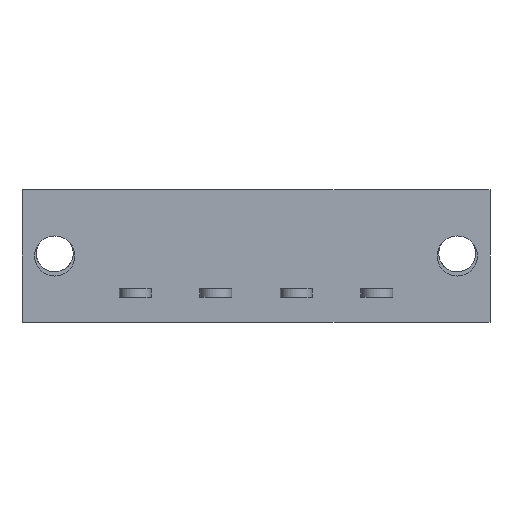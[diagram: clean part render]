
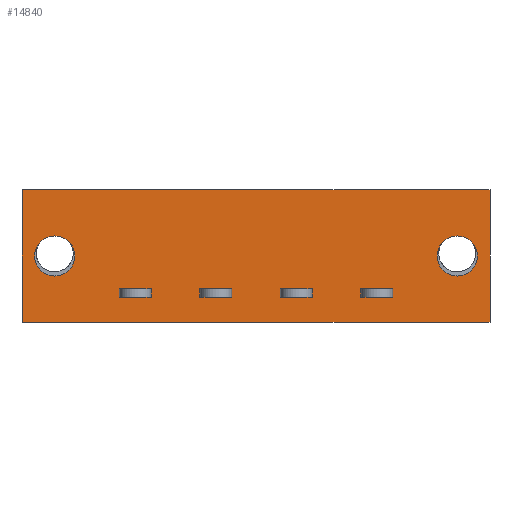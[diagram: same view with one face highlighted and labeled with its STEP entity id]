
A CAD part, front view. The second image highlights one B-rep face of the part: STEP entity #14840.
In plain terms, the highlighted planar face has unit normal (0, -1, 0).
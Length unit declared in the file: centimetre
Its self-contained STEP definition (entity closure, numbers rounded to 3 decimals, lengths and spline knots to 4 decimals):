
#767=PLANE('',#24390);
#1542=VECTOR('',#16039,1.);
#1739=VECTOR('',#16470,1.);
#1743=VECTOR('',#16475,1.);
#1746=VECTOR('',#16498,1.);
#1749=VECTOR('',#16502,1.);
#1760=VECTOR('',#16523,1.);
#1780=VECTOR('',#16546,1.);
#1781=VECTOR('',#16547,1.);
#1782=VECTOR('',#16548,1.);
#1783=VECTOR('',#16549,1.);
#1784=VECTOR('',#16550,1.);
#1785=VECTOR('',#16551,1.);
#1786=VECTOR('',#16552,1.);
#1787=VECTOR('',#16553,1.);
#1788=VECTOR('',#16554,1.);
#1789=VECTOR('',#16555,1.);
#1790=VECTOR('',#16556,1.);
#1791=VECTOR('',#16557,1.);
#1792=VECTOR('',#16558,1.);
#1793=VECTOR('',#16559,1.);
#3158=LINE('',#19921,#1542);
#3355=LINE('',#20575,#1739);
#3359=LINE('',#20584,#1743);
#3362=LINE('',#20605,#1746);
#3365=LINE('',#20610,#1749);
#3376=LINE('',#20639,#1760);
#3396=LINE('',#20680,#1780);
#3397=LINE('',#20683,#1781);
#3398=LINE('',#20685,#1782);
#3399=LINE('',#20687,#1783);
#3400=LINE('',#20688,#1784);
#3401=LINE('',#20691,#1785);
#3402=LINE('',#20693,#1786);
#3403=LINE('',#20695,#1787);
#3404=LINE('',#20696,#1788);
#3405=LINE('',#20699,#1789);
#3406=LINE('',#20701,#1790);
#3407=LINE('',#20703,#1791);
#3408=LINE('',#20704,#1792);
#3409=LINE('',#20706,#1793);
#4707=VERTEX_POINT('',#19920);
#4708=VERTEX_POINT('',#19922);
#4711=VERTEX_POINT('',#19930);
#4898=VERTEX_POINT('',#20576);
#4899=VERTEX_POINT('',#20577);
#4902=VERTEX_POINT('',#20585);
#4909=VERTEX_POINT('',#20606);
#4922=VERTEX_POINT('',#20640);
#4940=VERTEX_POINT('',#20679);
#4941=VERTEX_POINT('',#20681);
#4942=VERTEX_POINT('',#20682);
#4943=VERTEX_POINT('',#20684);
#4944=VERTEX_POINT('',#20686);
#4945=VERTEX_POINT('',#20689);
#4946=VERTEX_POINT('',#20690);
#4947=VERTEX_POINT('',#20692);
#4948=VERTEX_POINT('',#20694);
#4949=VERTEX_POINT('',#20697);
#4950=VERTEX_POINT('',#20698);
#4951=VERTEX_POINT('',#20700);
#4952=VERTEX_POINT('',#20702);
#4953=VERTEX_POINT('',#20705);
#5820=CIRCLE('',#24217,0.19);
#5882=CIRCLE('',#24391,0.19);
#6592=EDGE_CURVE('',#4708,#4707,#3158,.T.);
#6596=EDGE_CURVE('',#4711,#4711,#5820,.T.);
#6878=EDGE_CURVE('',#4898,#4899,#3355,.T.);
#6882=EDGE_CURVE('',#4902,#4898,#3359,.T.);
#6891=EDGE_CURVE('',#4909,#4902,#3362,.T.);
#6894=EDGE_CURVE('',#4899,#4909,#3365,.T.);
#6908=EDGE_CURVE('',#4922,#4707,#3376,.T.);
#6928=EDGE_CURVE('',#4940,#4940,#5882,.T.);
#6929=EDGE_CURVE('',#4941,#4942,#3396,.T.);
#6930=EDGE_CURVE('',#4942,#4943,#3397,.T.);
#6931=EDGE_CURVE('',#4943,#4944,#3398,.T.);
#6932=EDGE_CURVE('',#4944,#4941,#3399,.T.);
#6933=EDGE_CURVE('',#4945,#4946,#3400,.T.);
#6934=EDGE_CURVE('',#4946,#4947,#3401,.T.);
#6935=EDGE_CURVE('',#4947,#4948,#3402,.T.);
#6936=EDGE_CURVE('',#4948,#4945,#3403,.T.);
#6937=EDGE_CURVE('',#4949,#4950,#3404,.T.);
#6938=EDGE_CURVE('',#4950,#4951,#3405,.T.);
#6939=EDGE_CURVE('',#4951,#4952,#3406,.T.);
#6940=EDGE_CURVE('',#4952,#4949,#3407,.T.);
#6941=EDGE_CURVE('',#4953,#4708,#3408,.T.);
#6942=EDGE_CURVE('',#4922,#4953,#3409,.T.);
#9947=ORIENTED_EDGE('',*,*,#6596,.T.);
#9948=ORIENTED_EDGE('',*,*,#6928,.T.);
#9949=ORIENTED_EDGE('',*,*,#6882,.F.);
#9950=ORIENTED_EDGE('',*,*,#6891,.F.);
#9951=ORIENTED_EDGE('',*,*,#6894,.F.);
#9952=ORIENTED_EDGE('',*,*,#6878,.F.);
#9953=ORIENTED_EDGE('',*,*,#6929,.T.);
#9954=ORIENTED_EDGE('',*,*,#6930,.T.);
#9955=ORIENTED_EDGE('',*,*,#6931,.T.);
#9956=ORIENTED_EDGE('',*,*,#6932,.T.);
#9957=ORIENTED_EDGE('',*,*,#6933,.T.);
#9958=ORIENTED_EDGE('',*,*,#6934,.T.);
#9959=ORIENTED_EDGE('',*,*,#6935,.T.);
#9960=ORIENTED_EDGE('',*,*,#6936,.T.);
#9961=ORIENTED_EDGE('',*,*,#6937,.T.);
#9962=ORIENTED_EDGE('',*,*,#6938,.T.);
#9963=ORIENTED_EDGE('',*,*,#6939,.T.);
#9964=ORIENTED_EDGE('',*,*,#6940,.T.);
#9965=ORIENTED_EDGE('',*,*,#6941,.T.);
#9966=ORIENTED_EDGE('',*,*,#6592,.T.);
#9967=ORIENTED_EDGE('',*,*,#6908,.F.);
#9968=ORIENTED_EDGE('',*,*,#6942,.T.);
#13019=EDGE_LOOP('',(#9947));
#13020=EDGE_LOOP('',(#9948));
#13021=EDGE_LOOP('',(#9949,#9950,#9951,#9952));
#13022=EDGE_LOOP('',(#9953,#9954,#9955,#9956));
#13023=EDGE_LOOP('',(#9957,#9958,#9959,#9960));
#13024=EDGE_LOOP('',(#9961,#9962,#9963,#9964));
#13025=EDGE_LOOP('',(#9965,#9966,#9967,#9968));
#13949=FACE_BOUND('',#13019,.T.);
#13950=FACE_BOUND('',#13020,.T.);
#13951=FACE_BOUND('',#13021,.T.);
#13952=FACE_BOUND('',#13022,.T.);
#13953=FACE_BOUND('',#13023,.T.);
#13954=FACE_BOUND('',#13024,.T.);
#13955=FACE_BOUND('',#13025,.T.);
#14840=ADVANCED_FACE('',(#13949,#13950,#13951,#13952,#13953,#13954,#13955),
#767,.T.);
#16039=DIRECTION('',(0.,0.,1.));
#16045=DIRECTION('',(0.,1.,0.));
#16046=DIRECTION('',(0.19,0.,0.));
#16470=DIRECTION('',(0.,0.,-1.));
#16475=DIRECTION('',(-1.,0.,0.));
#16498=DIRECTION('',(0.,0.,1.));
#16502=DIRECTION('',(1.,0.,0.));
#16523=DIRECTION('',(1.,0.,0.));
#16543=DIRECTION('',(0.,-1.,0.));
#16544=DIRECTION('',(0.,1.,0.));
#16545=DIRECTION('',(0.19,0.,0.));
#16546=DIRECTION('',(1.,0.,0.));
#16547=DIRECTION('',(0.,0.,-1.));
#16548=DIRECTION('',(-1.,0.,0.));
#16549=DIRECTION('',(0.,0.,1.));
#16550=DIRECTION('',(1.,0.,0.));
#16551=DIRECTION('',(0.,0.,-1.));
#16552=DIRECTION('',(-1.,0.,0.));
#16553=DIRECTION('',(0.,0.,1.));
#16554=DIRECTION('',(1.,0.,0.));
#16555=DIRECTION('',(0.,0.,-1.));
#16556=DIRECTION('',(-1.,0.,0.));
#16557=DIRECTION('',(0.,0.,1.));
#16558=DIRECTION('',(1.,0.,0.));
#16559=DIRECTION('',(0.,0.,-1.));
#19920=CARTESIAN_POINT('',(3.048,0.,0.625));
#19921=CARTESIAN_POINT('',(3.048,0.,0.625));
#19922=CARTESIAN_POINT('',(3.048,0.,-0.625));
#19929=CARTESIAN_POINT('',(2.738,0.,0.));
#19930=CARTESIAN_POINT('',(2.548,0.,0.));
#20575=CARTESIAN_POINT('',(-0.46,0.,-0.175));
#20576=CARTESIAN_POINT('',(-0.46,0.,-0.31));
#20577=CARTESIAN_POINT('',(-0.46,0.,-0.39));
#20584=CARTESIAN_POINT('',(-0.465,0.,-0.31));
#20585=CARTESIAN_POINT('',(-0.16,0.,-0.31));
#20605=CARTESIAN_POINT('',(-0.16,0.,-0.175));
#20606=CARTESIAN_POINT('',(-0.16,0.,-0.39));
#20610=CARTESIAN_POINT('',(-0.465,0.,-0.39));
#20639=CARTESIAN_POINT('',(-1.382,0.,0.625));
#20640=CARTESIAN_POINT('',(-1.382,0.,0.625));
#20677=CARTESIAN_POINT('',(0.,0.,0.));
#20678=CARTESIAN_POINT('',(-1.072,0.,0.));
#20679=CARTESIAN_POINT('',(-1.262,0.,0.));
#20680=CARTESIAN_POINT('',(0.988,0.,-0.31));
#20681=CARTESIAN_POINT('',(1.826,0.,-0.31));
#20682=CARTESIAN_POINT('',(2.126,0.,-0.31));
#20683=CARTESIAN_POINT('',(2.126,0.,-0.175));
#20684=CARTESIAN_POINT('',(2.126,0.,-0.39));
#20685=CARTESIAN_POINT('',(0.988,0.,-0.39));
#20686=CARTESIAN_POINT('',(1.826,0.,-0.39));
#20687=CARTESIAN_POINT('',(1.826,0.,-0.175));
#20688=CARTESIAN_POINT('',(0.607,0.,-0.31));
#20689=CARTESIAN_POINT('',(1.064,0.,-0.31));
#20690=CARTESIAN_POINT('',(1.364,0.,-0.31));
#20691=CARTESIAN_POINT('',(1.364,0.,-0.175));
#20692=CARTESIAN_POINT('',(1.364,0.,-0.39));
#20693=CARTESIAN_POINT('',(0.607,0.,-0.39));
#20694=CARTESIAN_POINT('',(1.064,0.,-0.39));
#20695=CARTESIAN_POINT('',(1.064,0.,-0.175));
#20696=CARTESIAN_POINT('',(0.226,0.,-0.31));
#20697=CARTESIAN_POINT('',(0.302,0.,-0.31));
#20698=CARTESIAN_POINT('',(0.602,0.,-0.31));
#20699=CARTESIAN_POINT('',(0.602,0.,-0.175));
#20700=CARTESIAN_POINT('',(0.602,0.,-0.39));
#20701=CARTESIAN_POINT('',(0.226,0.,-0.39));
#20702=CARTESIAN_POINT('',(0.302,0.,-0.39));
#20703=CARTESIAN_POINT('',(0.302,0.,-0.175));
#20704=CARTESIAN_POINT('',(-1.382,0.,-0.625));
#20705=CARTESIAN_POINT('',(-1.382,0.,-0.625));
#20706=CARTESIAN_POINT('',(-1.382,0.,0.625));
#24217=AXIS2_PLACEMENT_3D('',#19929,#16045,#16046);
#24390=AXIS2_PLACEMENT_3D('',#20677,#16543,$);
#24391=AXIS2_PLACEMENT_3D('',#20678,#16544,#16545);
